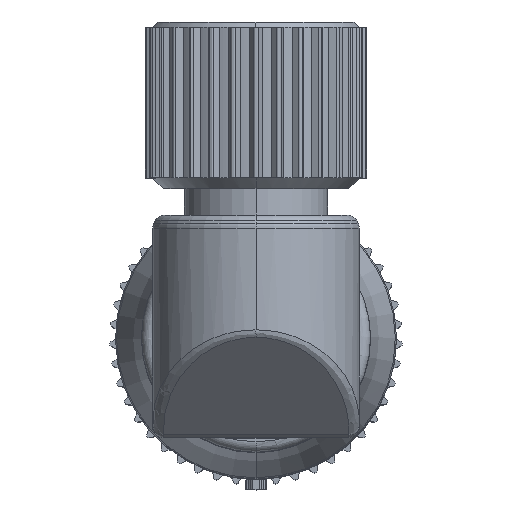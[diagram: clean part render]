
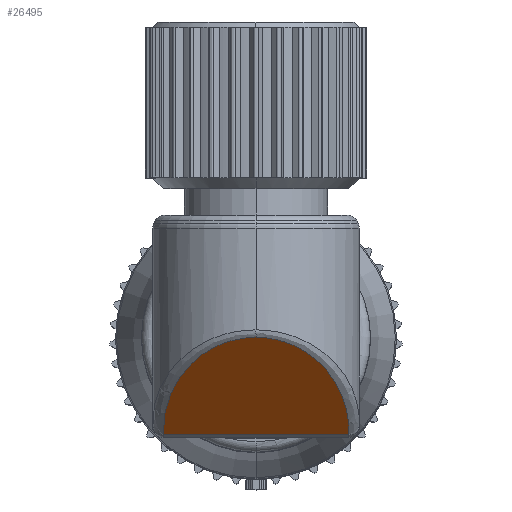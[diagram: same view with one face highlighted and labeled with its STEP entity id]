
A CAD part, top view. The second image highlights one B-rep face of the part: STEP entity #26495.
In plain terms, the highlighted planar face has unit normal (0, -0.707, 0.707) as drawn and (0.707, -0.707, 0) by its records, which use the part's own axes.
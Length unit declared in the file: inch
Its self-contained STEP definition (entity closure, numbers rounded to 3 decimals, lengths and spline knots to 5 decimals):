
#19194=DIRECTION('',(0.,0.,-1.));
#19195=VECTOR('',#19194,0.34961);
#19196=CARTESIAN_POINT('',(0.77814,-0.00586,
0.1748));
#19197=LINE('',#19196,#19195);
#19198=CARTESIAN_POINT('',(0.77814,-0.00586,
-0.17481));
#19199=CARTESIAN_POINT('',(0.77383,-0.01017,
-0.17501));
#19200=CARTESIAN_POINT('',(0.76493,-0.01907,
-0.17512));
#19201=CARTESIAN_POINT('',(0.75044,-0.03356,
-0.17413));
#19202=CARTESIAN_POINT('',(0.73559,-0.04841,
-0.17184));
#19203=CARTESIAN_POINT('',(0.72056,-0.06344,
-0.16815));
#19204=CARTESIAN_POINT('',(0.70575,-0.07825,
-0.16309));
#19205=CARTESIAN_POINT('',(0.69135,-0.09265,
-0.15667));
#19206=CARTESIAN_POINT('',(0.67743,-0.10657,
-0.14889));
#19207=CARTESIAN_POINT('',(0.66399,-0.12001,
-0.13967));
#19208=CARTESIAN_POINT('',(0.65124,-0.13276,
-0.12901));
#19209=CARTESIAN_POINT('',(0.64,-0.144,
-0.11764));
#19210=CARTESIAN_POINT('',(0.63074,-0.15326,
-0.10647));
#19211=CARTESIAN_POINT('',(0.62307,-0.16093,
-0.09557));
#19212=CARTESIAN_POINT('',(0.61664,-0.16736,
-0.08484));
#19213=CARTESIAN_POINT('',(0.61134,-0.17266,
-0.07443));
#19214=CARTESIAN_POINT('',(0.60712,-0.17688,
-0.06462));
#19215=CARTESIAN_POINT('',(0.60367,-0.18033,
-0.05514));
#19216=CARTESIAN_POINT('',(0.60067,-0.18333,
-0.04516));
#19217=CARTESIAN_POINT('',(0.59816,-0.18584,
-0.03441));
#19218=CARTESIAN_POINT('',(0.59635,-0.18765,
-0.02364));
#19219=CARTESIAN_POINT('',(0.59519,-0.18881,
-0.01266));
#19220=CARTESIAN_POINT('',(0.59486,-0.18914,
-0.00434));
#19221=CARTESIAN_POINT('',(0.59486,-0.18914,0.));
#19223=CARTESIAN_POINT('',(0.59486,-0.18914,0.));
#19224=CARTESIAN_POINT('',(0.59486,-0.18914,
0.00382));
#19225=CARTESIAN_POINT('',(0.59511,-0.18889,
0.01135));
#19226=CARTESIAN_POINT('',(0.59614,-0.18786,
0.02204));
#19227=CARTESIAN_POINT('',(0.59787,-0.18613,
0.03294));
#19228=CARTESIAN_POINT('',(0.60017,-0.18383,
0.04318));
#19229=CARTESIAN_POINT('',(0.60294,-0.18106,
0.05288));
#19230=CARTESIAN_POINT('',(0.60641,-0.17759,
0.06287));
#19231=CARTESIAN_POINT('',(0.61095,-0.17305,
0.07364));
#19232=CARTESIAN_POINT('',(0.61666,-0.16734,
0.08492));
#19233=CARTESIAN_POINT('',(0.6237,-0.1603,
0.09659));
#19234=CARTESIAN_POINT('',(0.63246,-0.15154,
0.10876));
#19235=CARTESIAN_POINT('',(0.64308,-0.14092,
0.12101));
#19236=CARTESIAN_POINT('',(0.65498,-0.12902,
0.13235));
#19237=CARTESIAN_POINT('',(0.66757,-0.11643,
0.14229));
#19238=CARTESIAN_POINT('',(0.68084,-0.10316,
0.15095));
#19239=CARTESIAN_POINT('',(0.69481,-0.08919,
0.15835));
#19240=CARTESIAN_POINT('',(0.70924,-0.07476,
0.16441));
#19241=CARTESIAN_POINT('',(0.72384,-0.06016,
0.16906));
#19242=CARTESIAN_POINT('',(0.73828,-0.04572,
0.17233));
#19243=CARTESIAN_POINT('',(0.75233,-0.03167,
0.1743));
#19244=CARTESIAN_POINT('',(0.76549,-0.01851,
0.1751));
#19245=CARTESIAN_POINT('',(0.77399,-0.01001,
0.175));
#19246=CARTESIAN_POINT('',(0.77814,-0.00586,
0.1748));
#22028=CARTESIAN_POINT('',(0.77814,-0.00586,
0.1748));
#22029=CARTESIAN_POINT('',(0.77814,-0.00586,
-0.17481));
#22030=VERTEX_POINT('',#22028);
#22031=VERTEX_POINT('',#22029);
#22036=VERTEX_POINT('',#19221);
#26484=CARTESIAN_POINT('',(0.784,0.,-0.5));
#26485=DIRECTION('',(-0.707,0.707,0.));
#26486=DIRECTION('',(-0.707,-0.707,0.));
#26487=AXIS2_PLACEMENT_3D('',#26484,#26485,#26486);
#26488=PLANE('',#26487);
#26490=ORIENTED_EDGE('',*,*,#26489,.T.);
#26491=ORIENTED_EDGE('',*,*,#26367,.T.);
#26492=ORIENTED_EDGE('',*,*,#26475,.T.);
#26493=EDGE_LOOP('',(#26490,#26491,#26492));
#26494=FACE_OUTER_BOUND('',#26493,.F.);
#26495=ADVANCED_FACE('',(#26494),#26488,.F.);
#19222=B_SPLINE_CURVE_WITH_KNOTS('',3,(#19198,#19199,#19200,#19201,#19202,
#19203,#19204,#19205,#19206,#19207,#19208,#19209,#19210,#19211,#19212,#19213,
#19214,#19215,#19216,#19217,#19218,#19219,#19220,#19221),.UNSPECIFIED.,.F.,.F.,(
4,1,1,1,1,1,1,1,1,1,1,1,1,1,1,1,1,1,1,1,1,4),(0.,0.04762,
0.09524,0.14286,0.19048,0.2381,
0.28571,0.33333,0.38095,0.42857,
0.47619,0.52381,0.57143,0.61905,
0.66667,0.71429,0.7619,0.80952,
0.85714,0.90476,0.95238,1.),.UNSPECIFIED.);
#19247=B_SPLINE_CURVE_WITH_KNOTS('',3,(#19223,#19224,#19225,#19226,#19227,
#19228,#19229,#19230,#19231,#19232,#19233,#19234,#19235,#19236,#19237,#19238,
#19239,#19240,#19241,#19242,#19243,#19244,#19245,#19246),.UNSPECIFIED.,.F.,.F.,(
4,1,1,1,1,1,1,1,1,1,1,1,1,1,1,1,1,1,1,1,1,4),(0.,0.04762,
0.09524,0.14286,0.19048,0.2381,
0.28571,0.33333,0.38095,0.42857,
0.47619,0.52381,0.57143,0.61905,
0.66667,0.71429,0.7619,0.80952,
0.85714,0.90476,0.95238,1.),.UNSPECIFIED.);
#26367=EDGE_CURVE('',#22031,#22036,#19222,.T.);
#26475=EDGE_CURVE('',#22036,#22030,#19247,.T.);
#26489=EDGE_CURVE('',#22030,#22031,#19197,.T.);
